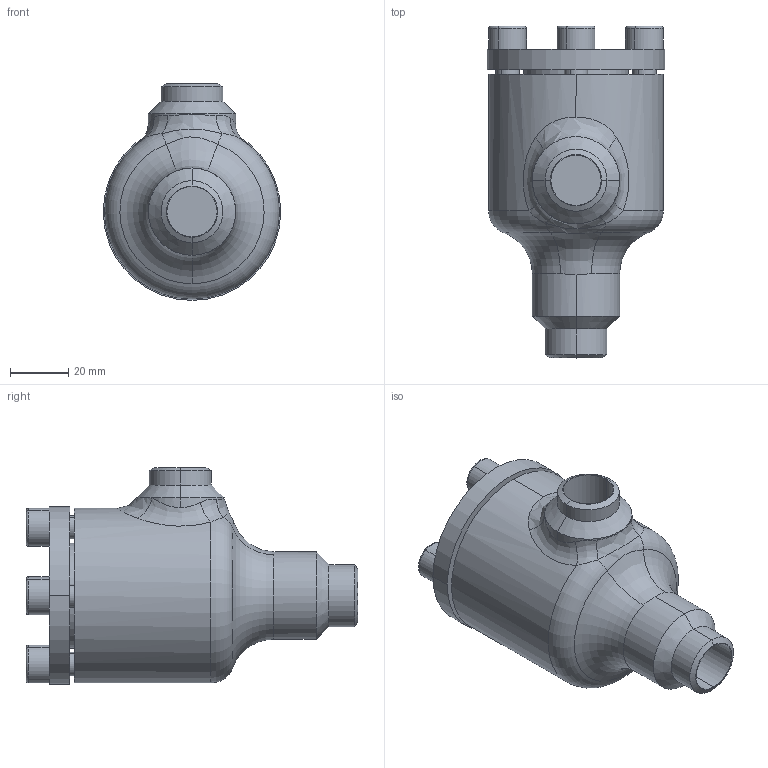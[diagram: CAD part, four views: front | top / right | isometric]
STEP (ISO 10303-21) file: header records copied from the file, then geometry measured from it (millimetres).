
FILE_DESCRIPTION (( 'STEP AP214' ), '1' );
FILE_NAME ('SS52400D10-DN015_R1_PS40.STEP', '2006-05-02T05:50:36', ( 'Herr Grams' ), ( 'AWP GmbH' ), 'SwSTEP 2.0', 'SolidWorks 2002296', '' );
FILE_SCHEMA (( 'AUTOMOTIVE_DESIGN' ));
Length unit declared in the file: millimetre
Products named in the file (5): SS52400D10-DN015_R1_PS40; SS52300K10_Deck+Schr-DN10-20_Standard; Deckel52300K10-DN10-20_Standard; Zylinderschraube-DIN912_M 8x 16; Gehäuse16400-DN015_Standard
Assembly tree (7 placements, depth 3):
  SS52400D10-DN015_R1_PS40
    SS52300K10_Deck+Schr-DN10-20_Standard
      Zylinderschraube-DIN912_M 8x 16  x4
      Deckel52300K10-DN10-20_Standard
    Gehäuse16400-DN015_Standard
Bounding box: 61 x 114 x 74.5 mm (x, y, z)
Volume: 199454 mm3; surface area: 35907.6 mm2
Topology: 6 solids, 6 shells, 135 faces, 290 edges, 181 vertices
Faces by surface type: plane 51, cylinder 49, cone 16, torus 11, bspline 8
Entity records: 12421 total; most frequent: CARTESIAN_POINT 10136, DIRECTION 422, ORIENTED_EDGE 352, AXIS2_PLACEMENT_3D 179, EDGE_CURVE 176, VERTEX_POINT 109, EDGE_LOOP 97, CIRCLE 95
